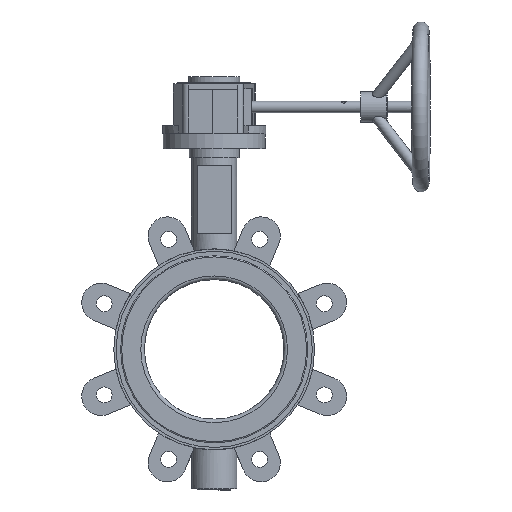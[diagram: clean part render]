
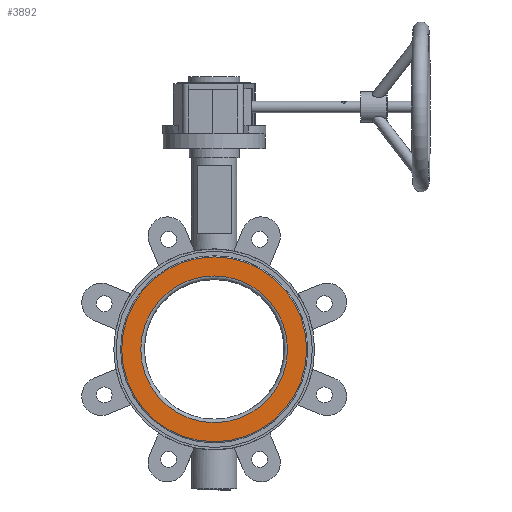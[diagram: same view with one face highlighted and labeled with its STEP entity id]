
A CAD part, front view. The second image highlights one B-rep face of the part: STEP entity #3892.
In plain terms, the highlighted planar face has unit normal (0, -1, 0) as drawn and (-1, 0, 0) by its records, which use the part's own axes.
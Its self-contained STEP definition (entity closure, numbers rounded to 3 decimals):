
#182 = CARTESIAN_POINT ( 'NONE',  ( -30., 0., 81.5 ) ) ;
#1009 = DIRECTION ( 'NONE',  ( 1., 0., 0. ) ) ;
#1683 = VERTEX_POINT ( 'NONE', #182 ) ;
#1816 = EDGE_LOOP ( 'NONE', ( #3252 ) ) ;
#2151 = FACE_BOUND ( 'NONE', #5949, .T. ) ;
#2629 = AXIS2_PLACEMENT_3D ( 'NONE', #9310, #2900, #10140 ) ;
#2679 = VERTEX_POINT ( 'NONE', #7396 ) ;
#2900 = DIRECTION ( 'NONE',  ( -1., 0., 0. ) ) ;
#3089 = EDGE_CURVE ( 'NONE', #2679, #2679, #3767, .T. ) ;
#3252 = ORIENTED_EDGE ( 'NONE', *, *, #6331, .T. ) ;
#3506 = CIRCLE ( 'NONE', #2629, 81.5 ) ;
#3630 = DIRECTION ( 'NONE',  ( 0., 0., -1. ) ) ;
#3767 = CIRCLE ( 'NONE', #3865, 64.69 ) ;
#3865 = AXIS2_PLACEMENT_3D ( 'NONE', #6475, #9172, #11019 ) ;
#3892 = ADVANCED_FACE ( 'NONE', ( #2151, #7232 ), #9090, .F. ) ;
#5528 = CARTESIAN_POINT ( 'NONE',  ( -30., 0., 0. ) ) ;
#5949 = EDGE_LOOP ( 'NONE', ( #7927 ) ) ;
#6331 = EDGE_CURVE ( 'NONE', #1683, #1683, #3506, .T. ) ;
#6475 = CARTESIAN_POINT ( 'NONE',  ( -30., 0., 0. ) ) ;
#7232 = FACE_OUTER_BOUND ( 'NONE', #1816, .T. ) ;
#7396 = CARTESIAN_POINT ( 'NONE',  ( -30., 0., 64.69 ) ) ;
#7927 = ORIENTED_EDGE ( 'NONE', *, *, #3089, .F. ) ;
#8632 = AXIS2_PLACEMENT_3D ( 'NONE', #5528, #1009, #3630 ) ;
#9090 = PLANE ( 'NONE',  #8632 ) ;
#9172 = DIRECTION ( 'NONE',  ( -1., 0., 0. ) ) ;
#9310 = CARTESIAN_POINT ( 'NONE',  ( -30., 0., 0. ) ) ;
#10140 = DIRECTION ( 'NONE',  ( 0., 0., 1. ) ) ;
#11019 = DIRECTION ( 'NONE',  ( 0., 0., 1. ) ) ;
